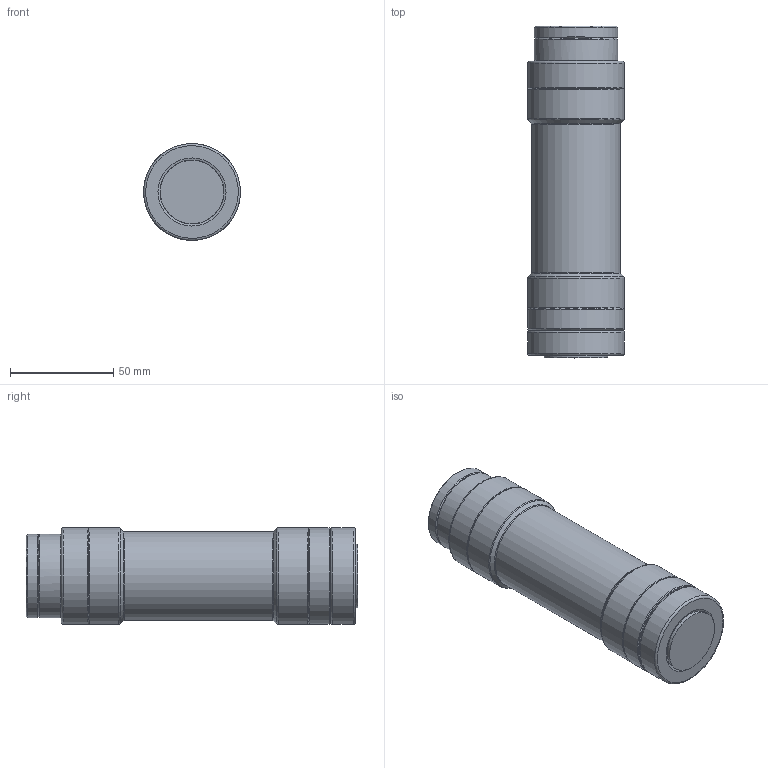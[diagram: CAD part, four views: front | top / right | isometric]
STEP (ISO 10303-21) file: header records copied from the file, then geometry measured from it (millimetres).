
FILE_DESCRIPTION (( 'STEP AP214' ), '1' );
FILE_NAME ('PA Altimeter 200-500kHz 4000m SS.STEP', '2014-12-10T12:27:38', ( 'Allan' ), ( 'Microsoft' ), 'SwSTEP 2.0', 'SolidWorks 2013', '' );
FILE_SCHEMA (( 'AUTOMOTIVE_DESIGN' ));
Length unit declared in the file: inch
Products named in the file (1): PA Altimeter 200-500kHz 4000m SS
Bounding box: 47 x 160.93 x 47 mm (x, y, z)
Surface area: 30514.6 mm2 (no closed solid volume)
Topology: 0 solids, 15 shells, 85 faces, 255 edges, 169 vertices
Faces by surface type: cylinder 37, cone 19, torus 12, plane 10, sphere 7
Full cylindrical faces by diameter (mm): 1.5 x6, 3.43 x8, 7 x4, 11.69 x1, 21.94 x1, 30.8 x1, 31 x1, 40.7 x2, 43 x1, 47 x5
Entity records: 3668 total; most frequent: CARTESIAN_POINT 637, DIRECTION 434, ORIENTED_EDGE 242, AXIS2_PLACEMENT_3D 211, EDGE_LOOP 177, EDGE_CURVE 157, VERTEX_POINT 142, FACE_OUTER_BOUND 128
